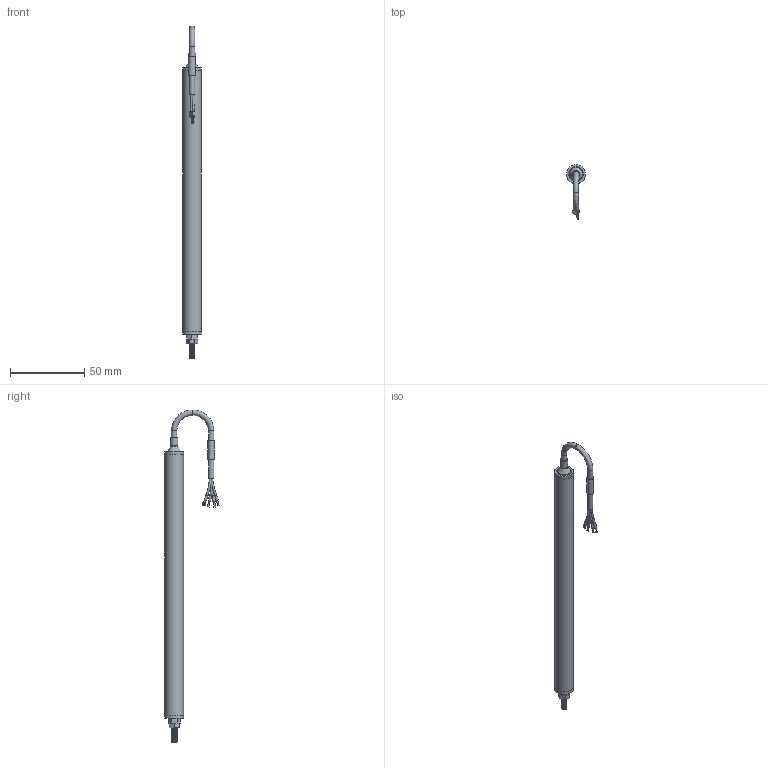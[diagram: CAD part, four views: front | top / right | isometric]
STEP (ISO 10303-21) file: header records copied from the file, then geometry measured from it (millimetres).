
FILE_DESCRIPTION(/* description */ (''),/* implementation_level */ '2;1');
FILE_NAME(/* name */ 'LPPS-12-125-A Assembly (wrapped).step',/* time_stamp */ '2023-10-10T09:59:17-04:00',/* author */ ('TSC_Grant'),/* organization */ (''),/* preprocessor_version */ 'ST-DEVELOPER v19.2',/* originating_system */ 'Autodesk Inventor 2024',/* authorisation */ '');
FILE_SCHEMA (('AUTOMOTIVE_DESIGN { 1 0 10303 214 3 1 1 }'));
Length unit declared in the file: inch
Products named in the file (4): LPPS-12-010-A Assembly (wrapped); LPPS-12-010-A Body (wrapped); LPPS-12-010-A Assembly_Simplify_1; Wire
Assembly tree (3 placements, depth 2):
  LPPS-12-010-A Assembly (wrapped)
    LPPS-12-010-A Body (wrapped)
    LPPS-12-010-A Assembly_Simplify_1
    Wire
Bounding box: 12.7 x 36.8 x 224.24 mm (x, y, z)
Volume: 23639.7 mm3; surface area: 13722.6 mm2
Topology: 13 solids, 13 shells, 133 faces, 286 edges, 190 vertices
Faces by surface type: plane 75, cylinder 44, bspline 8, torus 5, cone 1
Full cylindrical faces by diameter (mm): 1.016 x3, 1.27 x1, 1.524 x3, 1.651 x2, 3.632 x6, 3.937 x8, 4.191 x1, 4.445 x1, 4.826 x1, 12.7 x3
Entity records: 5483 total; most frequent: CARTESIAN_POINT 2222, DIRECTION 619, ORIENTED_EDGE 572, EDGE_CURVE 286, AXIS2_PLACEMENT_3D 236, VERTEX_POINT 190, EDGE_LOOP 150, LINE 147
